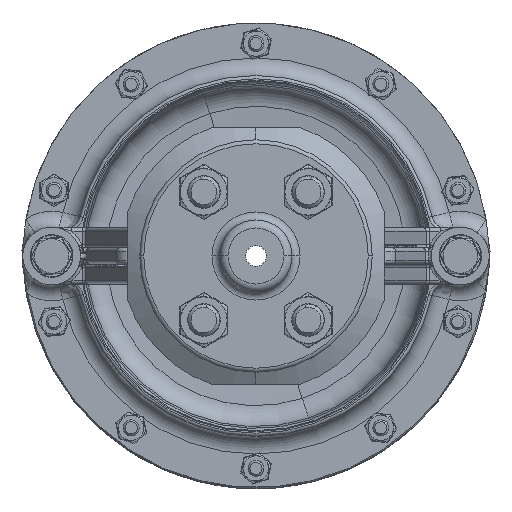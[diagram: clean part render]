
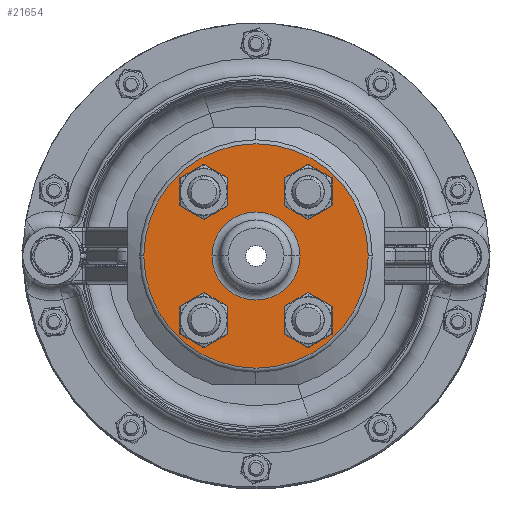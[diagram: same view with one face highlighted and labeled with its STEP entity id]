
A CAD part, front view. The second image highlights one B-rep face of the part: STEP entity #21654.
In plain terms, the highlighted planar face has unit normal (0, -1, 0).
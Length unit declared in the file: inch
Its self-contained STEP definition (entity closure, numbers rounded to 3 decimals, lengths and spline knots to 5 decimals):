
#1133 = CARTESIAN_POINT ( 'NONE',  ( 0., 1.03, -1.75 ) ) ;
#2396 = CARTESIAN_POINT ( 'NONE',  ( 1., 1.03, -1.10863 ) ) ;
#2397 = CARTESIAN_POINT ( 'NONE',  ( 1., 1.03, -0.51737 ) ) ;
#2404 = CARTESIAN_POINT ( 'NONE',  ( -1., 1.03, -1.10863 ) ) ;
#2405 = CARTESIAN_POINT ( 'NONE',  ( -1., 1.03, -0.51737 ) ) ;
#2412 = CARTESIAN_POINT ( 'NONE',  ( 1., 1.03, 0.51737 ) ) ;
#2413 = CARTESIAN_POINT ( 'NONE',  ( 1., 1.03, 1.10863 ) ) ;
#2420 = CARTESIAN_POINT ( 'NONE',  ( -1., 1.03, 0.51737 ) ) ;
#2421 = CARTESIAN_POINT ( 'NONE',  ( -1., 1.03, 1.10863 ) ) ;
#2426 = CARTESIAN_POINT ( 'NONE',  ( 0., 1.03, 1.75 ) ) ;
#2439 = CARTESIAN_POINT ( 'NONE',  ( 0., 1.03, -0.6875 ) ) ;
#2442 = CARTESIAN_POINT ( 'NONE',  ( 0., 1.03, 0.6875 ) ) ;
#21034 = EDGE_CURVE ( 'NONE', #33890, #33891, #37084, .T. ) ;
#21042 = EDGE_CURVE ( 'NONE', #33898, #33899, #37096, .T. ) ;
#21050 = EDGE_CURVE ( 'NONE', #33906, #33907, #37108, .T. ) ;
#21058 = EDGE_CURVE ( 'NONE', #33914, #33915, #37120, .T. ) ;
#21072 = EDGE_CURVE ( 'NONE', #33879, #33920, #37146, .T. ) ;
#21088 = EDGE_CURVE ( 'NONE', #33933, #33936, #37162, .T. ) ;
#21140 = EDGE_CURVE ( 'NONE', #33915, #33914, #37230, .T. ) ;
#21141 = EDGE_CURVE ( 'NONE', #33907, #33906, #37231, .T. ) ;
#21142 = EDGE_CURVE ( 'NONE', #33899, #33898, #37232, .T. ) ;
#21143 = EDGE_CURVE ( 'NONE', #33891, #33890, #37233, .T. ) ;
#21144 = EDGE_CURVE ( 'NONE', #33920, #33879, #37234, .T. ) ;
#21145 = EDGE_CURVE ( 'NONE', #33936, #33933, #37235, .T. ) ;
#21654 = ADVANCED_FACE ( 'NONE', ( #51349, #51352, #51344, #51346, #51350, #51353 ), #53986, .F. ) ;
#25577 = ORIENTED_EDGE ( 'NONE', *, *, #21058, .T. ) ;
#25579 = ORIENTED_EDGE ( 'NONE', *, *, #21140, .T. ) ;
#25581 = ORIENTED_EDGE ( 'NONE', *, *, #21050, .T. ) ;
#25583 = ORIENTED_EDGE ( 'NONE', *, *, #21141, .T. ) ;
#25586 = ORIENTED_EDGE ( 'NONE', *, *, #21042, .T. ) ;
#25588 = ORIENTED_EDGE ( 'NONE', *, *, #21142, .T. ) ;
#25590 = ORIENTED_EDGE ( 'NONE', *, *, #21034, .T. ) ;
#25592 = ORIENTED_EDGE ( 'NONE', *, *, #21143, .T. ) ;
#25594 = ORIENTED_EDGE ( 'NONE', *, *, #21144, .T. ) ;
#25596 = ORIENTED_EDGE ( 'NONE', *, *, #21072, .T. ) ;
#25599 = ORIENTED_EDGE ( 'NONE', *, *, #21145, .T. ) ;
#25600 = ORIENTED_EDGE ( 'NONE', *, *, #21088, .T. ) ;
#33879 = VERTEX_POINT ( 'NONE', #1133 ) ;
#33890 = VERTEX_POINT ( 'NONE', #2396 ) ;
#33891 = VERTEX_POINT ( 'NONE', #2397 ) ;
#33898 = VERTEX_POINT ( 'NONE', #2404 ) ;
#33899 = VERTEX_POINT ( 'NONE', #2405 ) ;
#33906 = VERTEX_POINT ( 'NONE', #2412 ) ;
#33907 = VERTEX_POINT ( 'NONE', #2413 ) ;
#33914 = VERTEX_POINT ( 'NONE', #2420 ) ;
#33915 = VERTEX_POINT ( 'NONE', #2421 ) ;
#33920 = VERTEX_POINT ( 'NONE', #2426 ) ;
#33933 = VERTEX_POINT ( 'NONE', #2439 ) ;
#33936 = VERTEX_POINT ( 'NONE', #2442 ) ;
#37084 = CIRCLE ( 'NONE', #42720, 0.29563 ) ;
#37096 = CIRCLE ( 'NONE', #42728, 0.29563 ) ;
#37108 = CIRCLE ( 'NONE', #42736, 0.29563 ) ;
#37120 = CIRCLE ( 'NONE', #42744, 0.29563 ) ;
#37146 = CIRCLE ( 'NONE', #42754, 1.75 ) ;
#37162 = CIRCLE ( 'NONE', #42786, 0.6875 ) ;
#37230 = CIRCLE ( 'NONE', #42848, 0.29563 ) ;
#37231 = CIRCLE ( 'NONE', #42850, 0.29563 ) ;
#37232 = CIRCLE ( 'NONE', #42852, 0.29563 ) ;
#37233 = CIRCLE ( 'NONE', #42854, 0.29563 ) ;
#37234 = CIRCLE ( 'NONE', #42856, 1.75 ) ;
#37235 = CIRCLE ( 'NONE', #42858, 0.6875 ) ;
#42720 = AXIS2_PLACEMENT_3D ( 'NONE', #49116, #49117, #49118 ) ;
#42728 = AXIS2_PLACEMENT_3D ( 'NONE', #49136, #49137, #49138 ) ;
#42736 = AXIS2_PLACEMENT_3D ( 'NONE', #49156, #49157, #49158 ) ;
#42744 = AXIS2_PLACEMENT_3D ( 'NONE', #49178, #49179, #49180 ) ;
#42754 = AXIS2_PLACEMENT_3D ( 'NONE', #49207, #49208, #49209 ) ;
#42786 = AXIS2_PLACEMENT_3D ( 'NONE', #49257, #49258, #49259 ) ;
#42848 = AXIS2_PLACEMENT_3D ( 'NONE', #49423, #49424, #49425 ) ;
#42850 = AXIS2_PLACEMENT_3D ( 'NONE', #49426, #49427, #49428 ) ;
#42852 = AXIS2_PLACEMENT_3D ( 'NONE', #49429, #49430, #49431 ) ;
#42854 = AXIS2_PLACEMENT_3D ( 'NONE', #49432, #49433, #49434 ) ;
#42856 = AXIS2_PLACEMENT_3D ( 'NONE', #49435, #49436, #49437 ) ;
#42858 = AXIS2_PLACEMENT_3D ( 'NONE', #49438, #49439, #49440 ) ;
#43407 = AXIS2_PLACEMENT_3D ( 'NONE', #53988, #53979, #53990 ) ;
#45087 = EDGE_LOOP ( 'NONE', ( #25586, #25588 ) ) ;
#45091 = EDGE_LOOP ( 'NONE', ( #25599, #25600 ) ) ;
#45093 = EDGE_LOOP ( 'NONE', ( #25581, #25583 ) ) ;
#45094 = EDGE_LOOP ( 'NONE', ( #25577, #25579 ) ) ;
#45095 = EDGE_LOOP ( 'NONE', ( #25590, #25592 ) ) ;
#45096 = EDGE_LOOP ( 'NONE', ( #25594, #25596 ) ) ;
#49116 = CARTESIAN_POINT ( 'NONE',  ( 1., 1.03, -0.813 ) ) ;
#49117 = DIRECTION ( 'NONE',  ( 0., 1., 0. ) ) ;
#49118 = DIRECTION ( 'NONE',  ( 0., 0., 1. ) ) ;
#49136 = CARTESIAN_POINT ( 'NONE',  ( -1., 1.03, -0.813 ) ) ;
#49137 = DIRECTION ( 'NONE',  ( 0., 1., 0. ) ) ;
#49138 = DIRECTION ( 'NONE',  ( 0., 0., 1. ) ) ;
#49156 = CARTESIAN_POINT ( 'NONE',  ( 1., 1.03, 0.813 ) ) ;
#49157 = DIRECTION ( 'NONE',  ( 0., 1., 0. ) ) ;
#49158 = DIRECTION ( 'NONE',  ( 0., 0., 1. ) ) ;
#49178 = CARTESIAN_POINT ( 'NONE',  ( -1., 1.03, 0.813 ) ) ;
#49179 = DIRECTION ( 'NONE',  ( 0., 1., 0. ) ) ;
#49180 = DIRECTION ( 'NONE',  ( 0., 0., 1. ) ) ;
#49207 = CARTESIAN_POINT ( 'NONE',  ( 0., 1.03, 0. ) ) ;
#49208 = DIRECTION ( 'NONE',  ( 0., -1., 0. ) ) ;
#49209 = DIRECTION ( 'NONE',  ( 0., 0., 1. ) ) ;
#49257 = CARTESIAN_POINT ( 'NONE',  ( 0., 1.03, 0. ) ) ;
#49258 = DIRECTION ( 'NONE',  ( 0., 1., 0. ) ) ;
#49259 = DIRECTION ( 'NONE',  ( 0., 0., 1. ) ) ;
#49423 = CARTESIAN_POINT ( 'NONE',  ( -1., 1.03, 0.813 ) ) ;
#49424 = DIRECTION ( 'NONE',  ( 0., 1., 0. ) ) ;
#49425 = DIRECTION ( 'NONE',  ( 0., 0., 1. ) ) ;
#49426 = CARTESIAN_POINT ( 'NONE',  ( 1., 1.03, 0.813 ) ) ;
#49427 = DIRECTION ( 'NONE',  ( 0., 1., 0. ) ) ;
#49428 = DIRECTION ( 'NONE',  ( 0., 0., 1. ) ) ;
#49429 = CARTESIAN_POINT ( 'NONE',  ( -1., 1.03, -0.813 ) ) ;
#49430 = DIRECTION ( 'NONE',  ( 0., 1., 0. ) ) ;
#49431 = DIRECTION ( 'NONE',  ( 0., 0., 1. ) ) ;
#49432 = CARTESIAN_POINT ( 'NONE',  ( 1., 1.03, -0.813 ) ) ;
#49433 = DIRECTION ( 'NONE',  ( 0., 1., 0. ) ) ;
#49434 = DIRECTION ( 'NONE',  ( 0., 0., 1. ) ) ;
#49435 = CARTESIAN_POINT ( 'NONE',  ( 0., 1.03, 0. ) ) ;
#49436 = DIRECTION ( 'NONE',  ( 0., -1., 0. ) ) ;
#49437 = DIRECTION ( 'NONE',  ( 0., 0., 1. ) ) ;
#49438 = CARTESIAN_POINT ( 'NONE',  ( 0., 1.03, 0. ) ) ;
#49439 = DIRECTION ( 'NONE',  ( 0., 1., 0. ) ) ;
#49440 = DIRECTION ( 'NONE',  ( 0., 0., 1. ) ) ;
#51344 = FACE_BOUND ( 'NONE', #45087, .T. ) ;
#51346 = FACE_BOUND ( 'NONE', #45095, .T. ) ;
#51349 = FACE_BOUND ( 'NONE', #45094, .T. ) ;
#51350 = FACE_OUTER_BOUND ( 'NONE', #45096, .T. ) ;
#51352 = FACE_BOUND ( 'NONE', #45093, .T. ) ;
#51353 = FACE_BOUND ( 'NONE', #45091, .T. ) ;
#53979 = DIRECTION ( 'NONE',  ( 0., 1., 0. ) ) ;
#53986 = PLANE ( 'NONE',  #43407 ) ;
#53988 = CARTESIAN_POINT ( 'NONE',  ( -0.5625, 1.03, 0. ) ) ;
#53990 = DIRECTION ( 'NONE',  ( 0., 0., 1. ) ) ;
